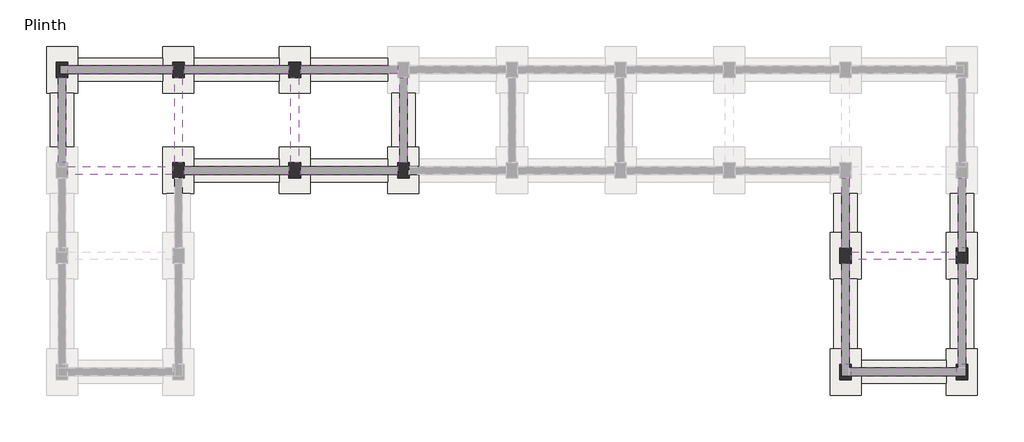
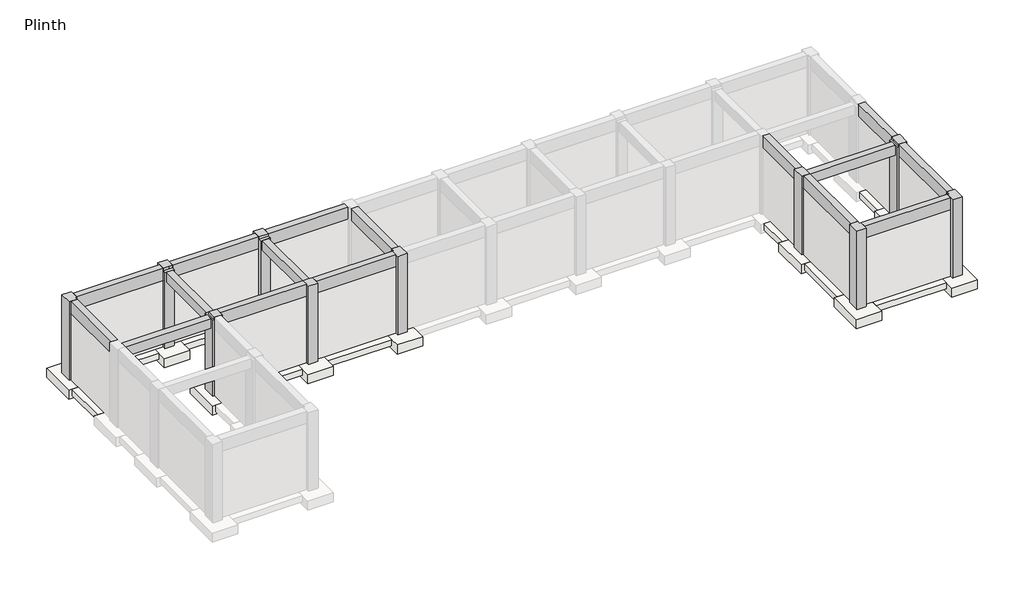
# One storey, part 2 of 3: 16 beams, 12 footings, 10 columns, 10 slabs.
"""IFC4 building model written with IfcOpenShell, lengths in millimetres."""

from ifc_helpers import new_model, si_unit, frame, origin, origin_with_axes, place, context, project, spatial, polyline, outline, extrude, faceted_brep, element, save

model = new_model("IFC4")

# Units and contexts
model_context = context("Model", 3, world=origin())
ifc_project = project(units=[si_unit("LENGTHUNIT", "METRE", prefix="MILLI")], contexts=[model_context])

# Site, building, storey
site = spatial("IfcSite", under=ifc_project)
building = spatial("IfcBuilding", under=site)
storey = spatial("IfcBuildingStorey", under=building, Name="Plinth", Elevation=304.8)

# Beams
placement = place(None, origin())
element("IfcBeam", 1, ObjectType="Concrete-Rectangular Beam : 12 x 24", at=placement, inside=storey, context=model_context, shape_type="SweptSolid", body=[
    extrude(outline(polyline([(-7030.7781752, 13902.9470864), (-7030.7781752, 14207.7470864), (-2915.9781752, 14207.7470864), (-2915.9781752, 13902.9470864), (-7030.7781752, 13902.9470864)])), frame((0.0, 0.0, 3657.6), z_axis=(0.0, 0.0, 1.0), x_axis=(1.0, 0.0, 0.0)), (0.0, 0.0, 1.0), 482.6),
])
element("IfcBeam", 2, ObjectType="Concrete-Rectangular Beam : 12 x 24", at=placement, inside=storey, context=model_context, shape_type="Brep", body=[
    faceted_brep([(-2534.9781752, 17103.3470864, 4267.2), (-2839.7781752, 17103.3470864, 4267.2), (-2839.7781752, 14360.1470864, 4267.2), (-2534.9781752, 14360.1470864, 4267.2), (-2839.7781752, 17103.3470864, 4140.2), (-2839.7781752, 17103.3470864, 3657.6), (-2839.7781752, 14360.1470864, 3657.6), (-2839.7781752, 14360.1470864, 4140.2), (-2534.9781752, 17103.3470864, 3657.6), (-2534.9781752, 14360.1470864, 3657.6)], [[[0, 1, 2, 3]], [[1, 4, 5, 6, 7, 2]], [[5, 8, 9, 6]], [[8, 0, 3, 9]], [[1, 0, 8, 5, 4]], [[3, 2, 7, 6, 9]]]),
])
element("IfcBeam", 3, ObjectType="Concrete-Rectangular Beam : 12 x 24", at=placement, inside=storey, context=model_context, shape_type="Brep", body=[
    faceted_brep([(-2534.9781752, 13750.5470864, 4267.2), (-2839.7781752, 13750.5470864, 4267.2), (-2839.7781752, 9788.1470864, 4267.2), (-2534.9781752, 9788.1470864, 4267.2), (-2839.7781752, 13750.5470864, 4140.2), (-2839.7781752, 13750.5470864, 3657.6), (-2839.7781752, 9788.1470864, 3657.6), (-2839.7781752, 9788.1470864, 4140.2), (-2534.9781752, 13750.5470864, 3657.6), (-2534.9781752, 9788.1470864, 3657.6)], [[[0, 1, 2, 3]], [[1, 4, 5, 6, 7, 2]], [[5, 8, 9, 6]], [[8, 0, 3, 9]], [[1, 0, 8, 5, 4]], [[3, 2, 7, 6, 9]]]),
])
element("IfcBeam", 4, ObjectType="Concrete-Rectangular Beam : 12 x 24", at=placement, inside=storey, context=model_context, shape_type="Brep", body=[
    faceted_brep([(-7106.9781752, 17103.3470864, 4267.2), (-7411.7781752, 17103.3470864, 4267.2), (-7411.7781752, 14360.1470864, 4267.2), (-7106.9781752, 14360.1470864, 4267.2), (-7411.7781752, 17103.3470864, 3657.6), (-7411.7781752, 14360.1470864, 3657.6), (-7106.9781752, 17103.3470864, 3657.6), (-7106.9781752, 14360.1470864, 3657.6), (-7106.9781752, 14360.1470864, 4140.2), (-7106.9781752, 17103.3470864, 4140.2)], [[[0, 1, 2, 3]], [[1, 4, 5, 2]], [[4, 6, 7, 5]], [[0, 3, 8, 7, 6, 9]], [[1, 0, 9, 6, 4]], [[3, 2, 5, 7, 8]]]),
])
element("IfcBeam", 5, ObjectType="Concrete-Rectangular Beam : 12 x 24", at=placement, inside=storey, context=model_context, shape_type="Brep", body=[
    faceted_brep([(-7106.9781752, 13750.5470864, 4267.2), (-7411.7781752, 13750.5470864, 4267.2), (-7411.7781752, 9788.1470864, 4267.2), (-7106.9781752, 9788.1470864, 4267.2), (-7411.7781752, 13750.5470864, 3657.6), (-7411.7781752, 9788.1470864, 3657.6), (-7106.9781752, 13750.5470864, 3657.6), (-7106.9781752, 9788.1470864, 3657.6), (-7106.9781752, 9788.1470864, 4140.2), (-7106.9781752, 13750.5470864, 4140.2)], [[[0, 1, 2, 3]], [[1, 4, 5, 2]], [[4, 6, 7, 5]], [[0, 3, 8, 7, 6, 9]], [[1, 0, 9, 6, 4]], [[3, 2, 5, 7, 8]]]),
])
element("IfcBeam", 6, ObjectType="Concrete-Rectangular Beam : 12 x 24", at=placement, inside=storey, context=model_context, shape_type="Brep", body=[
    faceted_brep([(-7030.7781752, 9635.7470864, 4267.2), (-7030.7781752, 9330.9470864, 4267.2), (-2915.9781752, 9330.9470864, 4267.2), (-2915.9781752, 9635.7470864, 4267.2), (-7030.7781752, 9330.9470864, 3657.6), (-2915.9781752, 9330.9470864, 3657.6), (-7030.7781752, 9635.7470864, 3657.6), (-2915.9781752, 9635.7470864, 3657.6), (-7030.7781752, 9635.7470864, 4140.2), (-2915.9781752, 9635.7470864, 4140.2)], [[[0, 1, 2, 3]], [[1, 4, 5, 2]], [[4, 6, 7, 5]], [[6, 8, 0, 3, 9, 7]], [[1, 0, 8, 6, 4]], [[3, 2, 5, 7, 9]]]),
])
element("IfcBeam", 7, ObjectType="Concrete-Rectangular Beam : 12 x 24", at=placement, inside=storey, context=model_context, shape_type="SweptSolid", body=[
    extrude(outline(polyline([(-28747.7781752, 17712.9470864), (-29052.5781752, 17712.9470864), (-29052.5781752, 21065.7470864), (-28747.7781752, 21065.7470864), (-28747.7781752, 17712.9470864)])), frame((0.0, 0.0, 3657.6), z_axis=(0.0, 0.0, 1.0), x_axis=(1.0, 0.0, 0.0)), (0.0, 0.0, 1.0), 482.6),
])
element("IfcBeam", 8, ObjectType="Concrete-Rectangular Beam : 12 x 24", at=placement, inside=storey, context=model_context, shape_type="SweptSolid", body=[
    extrude(outline(polyline([(-33624.5781752, 21065.7470864), (-33319.7781752, 21065.7470864), (-33319.7781752, 17712.9470864), (-33624.5781752, 17712.9470864), (-33624.5781752, 21065.7470864)])), frame((0.0, 0.0, 3657.6), z_axis=(0.0, 0.0, 1.0), x_axis=(1.0, 0.0, 0.0)), (0.0, 0.0, 1.0), 482.6),
])
element("IfcBeam", 9, ObjectType="Concrete-Rectangular Beam : 12 x 24", at=placement, inside=storey, context=model_context, shape_type="SweptSolid", body=[
    extrude(outline(polyline([(-33700.7781752, 17560.5470864), (-33700.7781752, 17255.7470864), (-37815.5781752, 17255.7470864), (-37815.5781752, 17560.5470864), (-33700.7781752, 17560.5470864)])), frame((0.0, 0.0, 3657.6), z_axis=(0.0, 0.0, 1.0), x_axis=(1.0, 0.0, 0.0)), (0.0, 0.0, 1.0), 482.6),
])
element("IfcBeam", 10, ObjectType="Concrete-Rectangular Beam : 12 x 24", at=placement, inside=storey, context=model_context, shape_type="Brep", body=[
    faceted_brep([(-24861.5781752, 21218.1470864, 4267.2), (-24861.5781752, 21522.9470864, 4267.2), (-28671.5781752, 21522.9470864, 4267.2), (-28671.5781752, 21218.1470864, 4267.2), (-24861.5781752, 21218.1470864, 3657.6), (-24861.5781752, 21218.1470864, 4140.2), (-28671.5781752, 21218.1470864, 4140.2), (-28671.5781752, 21218.1470864, 3657.6), (-24861.5781752, 21522.9470864, 3657.6), (-28671.5781752, 21522.9470864, 3657.6)], [[[0, 1, 2, 3]], [[4, 5, 0, 3, 6, 7]], [[8, 4, 7, 9]], [[1, 8, 9, 2]], [[1, 0, 5, 4, 8]], [[3, 2, 9, 7, 6]]]),
])
element("IfcBeam", 11, ObjectType="Concrete-Rectangular Beam : 12 x 24", at=placement, inside=storey, context=model_context, shape_type="Brep", body=[
    faceted_brep([(-29128.7781752, 21218.1470864, 4267.2), (-29128.7781752, 21522.9470864, 4267.2), (-33243.5781752, 21522.9470864, 4267.2), (-33243.5781752, 21218.1470864, 4267.2), (-29128.7781752, 21218.1470864, 3657.6), (-29128.7781752, 21218.1470864, 4140.2), (-33243.5781752, 21218.1470864, 4140.2), (-33243.5781752, 21218.1470864, 3657.6), (-29128.7781752, 21522.9470864, 3657.6), (-33243.5781752, 21522.9470864, 3657.6)], [[[0, 1, 2, 3]], [[4, 5, 0, 3, 6, 7]], [[8, 4, 7, 9]], [[1, 8, 9, 2]], [[1, 0, 5, 4, 8]], [[3, 2, 9, 7, 6]]]),
])
element("IfcBeam", 12, ObjectType="Concrete-Rectangular Beam : 12 x 24", at=placement, inside=storey, context=model_context, shape_type="Brep", body=[
    faceted_brep([(-33700.7781752, 21218.1470864, 4267.2), (-33700.7781752, 21522.9470864, 4267.2), (-37815.5781752, 21522.9470864, 4267.2), (-37815.5781752, 21218.1470864, 4267.2), (-33700.7781752, 21218.1470864, 3657.6), (-33700.7781752, 21218.1470864, 4140.2), (-37815.5781752, 21218.1470864, 4140.2), (-37815.5781752, 21218.1470864, 3657.6), (-33700.7781752, 21522.9470864, 3657.6), (-37815.5781752, 21522.9470864, 3657.6)], [[[0, 1, 2, 3]], [[4, 5, 0, 3, 6, 7]], [[8, 4, 7, 9]], [[1, 8, 9, 2]], [[1, 0, 5, 4, 8]], [[3, 2, 9, 7, 6]]]),
])
element("IfcBeam", 13, ObjectType="Concrete-Rectangular Beam : 12 x 24", at=placement, inside=storey, context=model_context, shape_type="Brep", body=[
    faceted_brep([(-24480.5781752, 21065.7470864, 4267.2), (-24785.3781752, 21065.7470864, 4267.2), (-24785.3781752, 17712.9470864, 4267.2), (-24480.5781752, 17712.9470864, 4267.2), (-24480.5781752, 21065.7470864, 3657.6), (-24480.5781752, 17712.9470864, 3657.6), (-24785.3781752, 21065.7470864, 3657.6), (-24785.3781752, 17712.9470864, 3657.6), (-24785.3781752, 21065.7470864, 4140.2), (-24785.3781752, 17712.9470864, 4140.2)], [[[0, 1, 2, 3]], [[4, 0, 3, 5]], [[6, 4, 5, 7]], [[1, 8, 6, 7, 9, 2]], [[1, 0, 4, 6, 8]], [[3, 2, 9, 7, 5]]]),
])
element("IfcBeam", 14, ObjectType="Concrete-Rectangular Beam : 12 x 24", at=placement, inside=storey, context=model_context, shape_type="Brep", body=[
    faceted_brep([(-37891.7781752, 21065.7470864, 4267.2), (-38196.5781752, 21065.7470864, 4267.2), (-38196.5781752, 17712.9470864, 4267.2), (-37891.7781752, 17712.9470864, 4267.2), (-37891.7781752, 21065.7470864, 3657.6), (-37891.7781752, 21065.7470864, 4140.2), (-37891.7781752, 17712.9470864, 4140.2), (-37891.7781752, 17712.9470864, 3657.6), (-38196.5781752, 21065.7470864, 3657.6), (-38196.5781752, 17712.9470864, 3657.6)], [[[0, 1, 2, 3]], [[4, 5, 0, 3, 6, 7]], [[8, 4, 7, 9]], [[1, 8, 9, 2]], [[1, 0, 5, 4, 8]], [[3, 2, 9, 7, 6]]]),
])
element("IfcBeam", 15, ObjectType="Concrete-Rectangular Beam : 12 x 24", at=placement, inside=storey, context=model_context, shape_type="Brep", body=[
    faceted_brep([(-29128.7781752, 17255.7470864, 4267.2), (-29128.7781752, 17560.5470864, 4267.2), (-33243.5781752, 17560.5470864, 4267.2), (-33243.5781752, 17255.7470864, 4267.2), (-29128.7781752, 17255.7470864, 3657.6), (-33243.5781752, 17255.7470864, 3657.6), (-29128.7781752, 17560.5470864, 3657.6), (-33243.5781752, 17560.5470864, 3657.6), (-29128.7781752, 17560.5470864, 4140.2), (-33243.5781752, 17560.5470864, 4140.2)], [[[0, 1, 2, 3]], [[4, 0, 3, 5]], [[6, 4, 5, 7]], [[2, 1, 8, 6, 7, 9]], [[1, 0, 4, 6, 8]], [[3, 2, 9, 7, 5]]]),
])
element("IfcBeam", 16, ObjectType="Concrete-Rectangular Beam : 12 x 24", at=placement, inside=storey, context=model_context, shape_type="Brep", body=[
    faceted_brep([(-24861.5781752, 17255.7470864, 4267.2), (-24861.5781752, 17560.5470864, 4267.2), (-28671.5781752, 17560.5470864, 4267.2), (-28671.5781752, 17255.7470864, 4267.2), (-24861.5781752, 17255.7470864, 3657.6), (-28671.5781752, 17255.7470864, 3657.6), (-24861.5781752, 17560.5470864, 3657.6), (-28671.5781752, 17560.5470864, 3657.6), (-24861.5781752, 17560.5470864, 4140.2), (-28671.5781752, 17560.5470864, 4140.2)], [[[0, 1, 2, 3]], [[4, 0, 3, 5]], [[6, 4, 5, 7]], [[2, 1, 8, 6, 7, 9]], [[1, 0, 4, 6, 8]], [[3, 2, 9, 7, 5]]]),
])

# Columns
element("IfcColumn", 17, ObjectType="Concrete-Rectangular-Column : 18 x 24", at=placement, inside=storey, context=model_context, shape_type="Brep", body=[
    faceted_brep([(-7030.7781752, 14360.1470864, 304.8), (-7030.7781752, 13750.5470864, 304.8), (-7106.9781752, 13750.5470864, 304.8), (-7411.7781752, 13750.5470864, 304.8), (-7487.9781752, 13750.5470864, 304.8), (-7487.9781752, 14360.1470864, 304.8), (-7411.7781752, 14360.1470864, 304.8), (-7106.9781752, 14360.1470864, 304.8), (-7030.7781752, 14360.1470864, 4140.2), (-7030.7781752, 13750.5470864, 4140.2), (-7106.9781752, 13750.5470864, 4140.2), (-7106.9781752, 13750.5470864, 4267.2), (-7487.9781752, 13750.5470864, 4267.2), (-7487.9781752, 14360.1470864, 4267.2), (-7106.9781752, 14360.1470864, 4267.2), (-7106.9781752, 14360.1470864, 4140.2), (-7106.9781752, 14211.6122361, 4267.2), (-7106.9781752, 14211.6122361, 4140.2)], [[[0, 1, 2, 3, 4, 5, 6, 7]], [[1, 0, 8, 9]], [[4, 3, 2, 1, 9, 10, 11, 12]], [[5, 4, 12, 13]], [[0, 7, 6, 5, 13, 14, 15, 8]], [[13, 12, 11, 16, 14]], [[15, 17, 10, 9, 8]], [[17, 16, 11, 10]], [[16, 17, 15, 14]]]),
])
element("IfcColumn", 18, ObjectType="Concrete-Rectangular-Column : 18 x 24", at=placement, inside=storey, context=model_context, shape_type="Brep", body=[
    faceted_brep([(-2458.7781752, 14360.1470864, 304.8), (-2458.7781752, 13750.5470864, 304.8), (-2534.9781752, 13750.5470864, 304.8), (-2839.7781752, 13750.5470864, 304.8), (-2915.9781752, 13750.5470864, 304.8), (-2915.9781752, 14360.1470864, 304.8), (-2839.7781752, 14360.1470864, 304.8), (-2839.7781752, 14207.7470864, 304.8), (-2534.9781752, 14207.7470864, 304.8), (-2534.9781752, 14360.1470864, 304.8), (-2458.7781752, 14360.1470864, 4267.2), (-2458.7781752, 13750.5470864, 4267.2), (-2839.7781752, 13750.5470864, 4267.2), (-2839.7781752, 13750.5470864, 4140.2), (-2915.9781752, 13750.5470864, 4140.2), (-2915.9781752, 14360.1470864, 4140.2), (-2534.9781752, 14360.1470864, 3657.6), (-2839.7781752, 14360.1470864, 3657.6), (-2839.7781752, 14360.1470864, 4140.2), (-2839.7781752, 14360.1470864, 4267.2), (-2839.7781752, 14203.6458879, 4267.2), (-2839.7781752, 14207.7470864, 3657.6), (-2534.9781752, 14207.7470864, 3657.6), (-2839.7781752, 14203.6458879, 4140.2)], [[[0, 1, 2, 3, 4, 5, 6, 7, 8, 9]], [[1, 0, 10, 11]], [[4, 3, 2, 1, 11, 12, 13, 14]], [[5, 4, 14, 15]], [[10, 0, 9, 16, 17, 6, 5, 15, 18, 19]], [[11, 10, 19, 20, 12]], [[21, 7, 6, 17]], [[22, 21, 17, 16]], [[22, 8, 7, 21]], [[8, 22, 16, 9]], [[13, 23, 18, 15, 14]], [[23, 20, 19, 18]], [[20, 23, 13, 12]]]),
])
element("IfcColumn", 19, ObjectType="Concrete-Rectangular-Column : 18 x 24", at=placement, inside=storey, context=model_context, shape_type="Brep", body=[
    faceted_brep([(-7106.9781752, 9788.1470864, 304.8), (-7030.7781752, 9788.1470864, 304.8), (-7030.7781752, 9635.7470864, 304.8), (-7106.9781752, 9635.7470864, 304.8), (-7030.7781752, 9178.5470864, 4267.2), (-7030.7781752, 9178.5470864, 304.8), (-7030.7781752, 9330.9470864, 304.8), (-7030.7781752, 9330.9470864, 3657.6), (-7030.7781752, 9635.7470864, 3657.6), (-7030.7781752, 9788.1470864, 4140.2), (-7030.7781752, 9635.7470864, 4140.2), (-7030.7781752, 9635.7470864, 4267.2), (-7487.9781752, 9178.5470864, 304.8), (-7487.9781752, 9178.5470864, 4267.2), (-7487.9781752, 9788.1470864, 304.8), (-7487.9781752, 9788.1470864, 4267.2), (-7106.9781752, 9788.1470864, 4267.2), (-7106.9781752, 9788.1470864, 4140.2), (-7106.9781752, 9788.1470864, 3657.6), (-7411.7781752, 9788.1470864, 3657.6), (-7411.7781752, 9788.1470864, 304.8), (-7106.9781752, 9635.7470864, 4267.2), (-7411.7781752, 9330.9470864, 3657.6), (-7411.7781752, 9330.9470864, 304.8), (-7106.9781752, 9635.7470864, 3657.6), (-7106.9781752, 9330.9470864, 3657.6), (-7106.9781752, 9330.9470864, 304.8), (-7106.9781752, 9635.7470864, 4140.2)], [[[0, 1, 2, 3]], [[4, 5, 6, 7, 8, 2, 1, 9, 10, 11]], [[12, 5, 4, 13]], [[14, 12, 13, 15]], [[14, 15, 16, 17, 9, 1, 0, 18, 19, 20]], [[13, 4, 11, 21, 16, 15]], [[22, 23, 20, 19]], [[18, 0, 3, 24]], [[23, 22, 25, 7, 6, 26]], [[8, 24, 3, 2]], [[22, 19, 18, 24, 8, 7, 25]], [[5, 12, 14, 20, 23, 26, 6]], [[17, 27, 10, 9]], [[27, 21, 11, 10]], [[21, 27, 17, 16]]]),
])
element("IfcColumn", 20, ObjectType="Concrete-Rectangular-Column : 18 x 24", at=placement, inside=storey, context=model_context, shape_type="Brep", body=[
    faceted_brep([(-2839.7781752, 9635.7470864, 304.8), (-2915.9781752, 9635.7470864, 304.8), (-2915.9781752, 9788.1470864, 304.8), (-2839.7781752, 9788.1470864, 304.8), (-2458.7781752, 9178.5470864, 304.8), (-2458.7781752, 9788.1470864, 304.8), (-2458.7781752, 9788.1470864, 4267.2), (-2458.7781752, 9178.5470864, 4267.2), (-2915.9781752, 9178.5470864, 304.8), (-2915.9781752, 9178.5470864, 4267.2), (-2915.9781752, 9635.7470864, 4267.2), (-2915.9781752, 9635.7470864, 4140.2), (-2915.9781752, 9788.1470864, 4140.2), (-2915.9781752, 9635.7470864, 3657.6), (-2915.9781752, 9330.9470864, 3657.6), (-2915.9781752, 9330.9470864, 304.8), (-2534.9781752, 9788.1470864, 304.8), (-2534.9781752, 9788.1470864, 3657.6), (-2839.7781752, 9788.1470864, 3657.6), (-2839.7781752, 9788.1470864, 4140.2), (-2839.7781752, 9788.1470864, 4267.2), (-2839.7781752, 9635.7470864, 4267.2), (-2534.9781752, 9330.9470864, 3657.6), (-2534.9781752, 9330.9470864, 304.8), (-2839.7781752, 9635.7470864, 3657.6), (-2534.9781752, 9635.7470864, 3657.6), (-2534.9781752, 9635.7470864, 304.8), (-2839.7781752, 9635.7470864, 4140.2)], [[[0, 1, 2, 3]], [[4, 5, 6, 7]], [[8, 4, 7, 9]], [[8, 9, 10, 11, 12, 2, 1, 13, 14, 15]], [[6, 5, 16, 17, 18, 3, 2, 12, 19, 20]], [[7, 6, 20, 21, 10, 9]], [[14, 22, 23, 15]], [[13, 1, 0, 24]], [[22, 14, 13, 24, 18, 17, 25]], [[23, 22, 25, 17, 16, 26]], [[18, 24, 0, 3]], [[5, 4, 8, 15, 23, 26, 16]], [[11, 27, 19, 12]], [[27, 21, 20, 19]], [[21, 27, 11, 10]]]),
])
element("IfcColumn", 21, ObjectType="Concrete-Rectangular-Column : 18 x 24", at=placement, inside=storey, context=model_context, shape_type="Brep", body=[
    faceted_brep([(-29128.7781752, 21065.7470864, 304.8), (-29128.7781752, 21218.1470864, 304.8), (-29128.7781752, 21522.9470864, 304.8), (-29128.7781752, 21675.3470864, 304.8), (-28671.5781752, 21675.3470864, 304.8), (-28671.5781752, 21522.9470864, 304.8), (-28671.5781752, 21218.1470864, 304.8), (-28671.5781752, 21065.7470864, 304.8), (-29128.7781752, 21065.7470864, 4140.2), (-29128.7781752, 21218.1470864, 4140.2), (-29128.7781752, 21218.1470864, 4267.2), (-29128.7781752, 21675.3470864, 4267.2), (-28671.5781752, 21065.7470864, 4140.2), (-28671.5781752, 21675.3470864, 4267.2), (-28671.5781752, 21218.1470864, 4267.2), (-28671.5781752, 21218.1470864, 4140.2)], [[[0, 1, 2, 3, 4, 5, 6, 7]], [[3, 2, 1, 0, 8, 9, 10, 11]], [[0, 7, 12, 8]], [[7, 6, 5, 4, 13, 14, 15, 12]], [[4, 3, 11, 13]], [[13, 11, 10, 14]], [[15, 9, 8, 12]], [[9, 15, 14, 10]]]),
])
element("IfcColumn", 22, ObjectType="Concrete-Rectangular-Column : 18 x 24", at=placement, inside=storey, context=model_context, shape_type="Brep", body=[
    faceted_brep([(-33700.7781752, 21065.7470864, 304.8), (-33700.7781752, 21218.1470864, 304.8), (-33700.7781752, 21522.9470864, 304.8), (-33700.7781752, 21675.3470864, 304.8), (-33243.5781752, 21675.3470864, 304.8), (-33243.5781752, 21522.9470864, 304.8), (-33243.5781752, 21218.1470864, 304.8), (-33243.5781752, 21065.7470864, 304.8), (-33700.7781752, 21065.7470864, 4140.2), (-33700.7781752, 21218.1470864, 4140.2), (-33700.7781752, 21218.1470864, 4267.2), (-33700.7781752, 21675.3470864, 4267.2), (-33243.5781752, 21065.7470864, 4140.2), (-33243.5781752, 21675.3470864, 4267.2), (-33243.5781752, 21218.1470864, 4267.2), (-33243.5781752, 21218.1470864, 4140.2), (-33393.6051326, 21218.1470864, 4267.2), (-33393.6051326, 21218.1470864, 4140.2)], [[[0, 1, 2, 3, 4, 5, 6, 7]], [[3, 2, 1, 0, 8, 9, 10, 11]], [[0, 7, 12, 8]], [[7, 6, 5, 4, 13, 14, 15, 12]], [[4, 3, 11, 13]], [[13, 11, 10, 16, 14]], [[15, 17, 9, 8, 12]], [[16, 17, 15, 14]], [[17, 16, 10, 9]]]),
])
element("IfcColumn", 23, ObjectType="Concrete-Rectangular-Column : 18 x 24", at=placement, inside=storey, context=model_context, shape_type="Brep", body=[
    faceted_brep([(-38272.7781752, 21065.7470864, 304.8), (-38272.7781752, 21675.3470864, 304.8), (-37815.5781752, 21675.3470864, 304.8), (-37815.5781752, 21522.9470864, 304.8), (-38120.3781752, 21522.9470864, 304.8), (-38120.3781752, 21218.1470864, 304.8), (-37815.5781752, 21218.1470864, 304.8), (-37815.5781752, 21065.7470864, 304.8), (-37891.7781752, 21065.7470864, 304.8), (-38196.5781752, 21065.7470864, 304.8), (-38272.7781752, 21065.7470864, 4267.2), (-38272.7781752, 21675.3470864, 4267.2), (-37815.5781752, 21065.7470864, 4140.2), (-37891.7781752, 21065.7470864, 4140.2), (-37891.7781752, 21065.7470864, 4267.2), (-37815.5781752, 21675.3470864, 4267.2), (-37815.5781752, 21218.1470864, 4267.2), (-37815.5781752, 21218.1470864, 4140.2), (-37815.5781752, 21218.1470864, 3657.6), (-37815.5781752, 21522.9470864, 3657.6), (-37891.7781752, 21218.1470864, 4267.2), (-38120.3781752, 21522.9470864, 3657.6), (-38120.3781752, 21218.1470864, 3657.6), (-37891.7781752, 21218.1470864, 4140.2)], [[[0, 1, 2, 3, 4, 5, 6, 7, 8, 9]], [[1, 0, 10, 11]], [[0, 9, 8, 7, 12, 13, 14, 10]], [[2, 15, 16, 17, 12, 7, 6, 18, 19, 3]], [[2, 1, 11, 15]], [[11, 10, 14, 20, 16, 15]], [[21, 4, 3, 19]], [[5, 22, 18, 6]], [[4, 21, 22, 5]], [[22, 21, 19, 18]], [[17, 23, 13, 12]], [[20, 23, 17, 16]], [[23, 20, 14, 13]]]),
])
element("IfcColumn", 24, ObjectType="Concrete-Rectangular-Column : 18 x 24", at=placement, inside=storey, context=model_context, shape_type="Brep", body=[
    faceted_brep([(-24861.5781752, 17103.3470864, 304.8), (-24861.5781752, 17255.7470864, 304.8), (-24861.5781752, 17560.5470864, 304.8), (-24861.5781752, 17712.9470864, 304.8), (-24785.3781752, 17712.9470864, 304.8), (-24480.5781752, 17712.9470864, 304.8), (-24404.3781752, 17712.9470864, 304.8), (-24404.3781752, 17560.5470864, 304.8), (-24404.3781752, 17255.7470864, 304.8), (-24404.3781752, 17103.3470864, 304.8), (-24861.5781752, 17103.3470864, 4267.2), (-24861.5781752, 17560.5470864, 4267.2), (-24861.5781752, 17560.5470864, 4140.2), (-24861.5781752, 17712.9470864, 4140.2), (-24404.3781752, 17103.3470864, 4267.2), (-24404.3781752, 17712.9470864, 4267.2), (-24785.3781752, 17712.9470864, 4140.2), (-24785.3781752, 17712.9470864, 4267.2), (-24785.3781752, 17560.5470864, 4267.2), (-24785.3781752, 17560.5470864, 4140.2)], [[[0, 1, 2, 3, 4, 5, 6, 7, 8, 9]], [[3, 2, 1, 0, 10, 11, 12, 13]], [[0, 9, 14, 10]], [[9, 8, 7, 6, 15, 14]], [[6, 5, 4, 3, 13, 16, 17, 15]], [[10, 14, 15, 17, 18, 11]], [[19, 16, 13, 12]], [[19, 18, 17, 16]], [[18, 19, 12, 11]]]),
])
element("IfcColumn", 25, ObjectType="Concrete-Rectangular-Column : 18 x 24", at=placement, inside=storey, context=model_context, shape_type="Brep", body=[
    faceted_brep([(-29128.7781752, 17103.3470864, 304.8), (-29128.7781752, 17255.7470864, 304.8), (-29128.7781752, 17560.5470864, 304.8), (-29128.7781752, 17712.9470864, 304.8), (-28671.5781752, 17712.9470864, 304.8), (-28671.5781752, 17560.5470864, 304.8), (-28671.5781752, 17255.7470864, 304.8), (-28671.5781752, 17103.3470864, 304.8), (-29128.7781752, 17103.3470864, 4267.2), (-29128.7781752, 17560.5470864, 4267.2), (-29128.7781752, 17560.5470864, 4140.2), (-29128.7781752, 17712.9470864, 4140.2), (-28671.5781752, 17103.3470864, 4267.2), (-28671.5781752, 17712.9470864, 4140.2), (-28671.5781752, 17560.5470864, 4140.2), (-28671.5781752, 17560.5470864, 4267.2), (-28862.0304875, 17560.5470864, 4267.2), (-28862.0304875, 17560.5470864, 4140.2)], [[[0, 1, 2, 3, 4, 5, 6, 7]], [[3, 2, 1, 0, 8, 9, 10, 11]], [[0, 7, 12, 8]], [[7, 6, 5, 4, 13, 14, 15, 12]], [[4, 3, 11, 13]], [[8, 12, 15, 16, 9]], [[10, 17, 14, 13, 11]], [[16, 17, 10, 9]], [[17, 16, 15, 14]]]),
])
element("IfcColumn", 26, ObjectType="Concrete-Rectangular-Column : 18 x 24", at=placement, inside=storey, context=model_context, shape_type="Brep", body=[
    faceted_brep([(-33700.7781752, 17103.3470864, 304.8), (-33700.7781752, 17712.9470864, 304.8), (-33243.5781752, 17712.9470864, 304.8), (-33243.5781752, 17560.5470864, 304.8), (-33243.5781752, 17255.7470864, 304.8), (-33243.5781752, 17103.3470864, 304.8), (-33319.7781752, 17103.3470864, 304.8), (-33624.5781752, 17103.3470864, 304.8), (-33700.7781752, 17103.3470864, 4140.2), (-33700.7781752, 17712.9470864, 4140.2), (-33243.5781752, 17103.3470864, 4267.2), (-33624.5781752, 17103.3470864, 4267.2), (-33624.5781752, 17103.3470864, 4140.2), (-33243.5781752, 17712.9470864, 4140.2), (-33243.5781752, 17560.5470864, 4140.2), (-33243.5781752, 17560.5470864, 4267.2), (-33624.5781752, 17560.5470864, 4267.2), (-33624.5781752, 17560.5470864, 4140.2)], [[[0, 1, 2, 3, 4, 5, 6, 7]], [[1, 0, 8, 9]], [[0, 7, 6, 5, 10, 11, 12, 8]], [[5, 4, 3, 2, 13, 14, 15, 10]], [[2, 1, 9, 13]], [[11, 10, 15, 16]], [[12, 17, 14, 13, 9, 8]], [[16, 17, 12, 11]], [[17, 16, 15, 14]]]),
])

# Footings
element("IfcFooting", 27, ObjectType="Bearing Footing - 36\" x 12\"", at=placement, inside=storey, context=model_context, shape_type="SweptSolid", body=[
    extrude(outline(polyline([(-3144.5781752, 16493.7470864), (-2230.1781752, 16493.7470864), (-2230.1781752, 14969.7470864), (-3144.5781752, 14969.7470864), (-3144.5781752, 16493.7470864)])), origin_with_axes(), (0.0, 0.0, 1.0), 304.8),
])
element("IfcFooting", 28, ObjectType="Bearing Footing - 36\" x 12\"", at=placement, inside=storey, context=model_context, shape_type="SweptSolid", body=[
    extrude(outline(polyline([(-3144.5781752, 13140.9470864), (-2230.1781752, 13140.9470864), (-2230.1781752, 10397.7470864), (-3144.5781752, 10397.7470864), (-3144.5781752, 13140.9470864)])), origin_with_axes(), (0.0, 0.0, 1.0), 304.8),
])
element("IfcFooting", 29, ObjectType="Bearing Footing - 36\" x 12\"", at=placement, inside=storey, context=model_context, shape_type="SweptSolid", body=[
    extrude(outline(polyline([(-6649.7781752, 9026.1470864), (-6649.7781752, 9940.5470864), (-3296.9781752, 9940.5470864), (-3296.9781752, 9026.1470864), (-6649.7781752, 9026.1470864)])), origin_with_axes(), (0.0, 0.0, 1.0), 304.8),
])
element("IfcFooting", 30, ObjectType="Bearing Footing - 36\" x 12\"", at=placement, inside=storey, context=model_context, shape_type="SweptSolid", body=[
    extrude(outline(polyline([(-7716.5781752, 13140.9470864), (-6802.1781752, 13140.9470864), (-6802.1781752, 10397.7470864), (-7716.5781752, 10397.7470864), (-7716.5781752, 13140.9470864)])), origin_with_axes(), (0.0, 0.0, 1.0), 304.8),
])
element("IfcFooting", 31, ObjectType="Bearing Footing - 36\" x 12\"", at=placement, inside=storey, context=model_context, shape_type="SweptSolid", body=[
    extrude(outline(polyline([(-7716.5781752, 16493.7470864), (-6802.1781752, 16493.7470864), (-6802.1781752, 14969.7470864), (-7716.5781752, 14969.7470864), (-7716.5781752, 16493.7470864)])), origin_with_axes(), (0.0, 0.0, 1.0), 304.8),
])
element("IfcFooting", 32, ObjectType="Bearing Footing - 36\" x 12\"", at=placement, inside=storey, context=model_context, shape_type="SweptSolid", body=[
    extrude(outline(polyline([(-25242.5781752, 21827.7470864), (-25242.5781752, 20913.3470864), (-28290.5781752, 20913.3470864), (-28290.5781752, 21827.7470864), (-25242.5781752, 21827.7470864)])), origin_with_axes(), (0.0, 0.0, 1.0), 304.8),
])
element("IfcFooting", 33, ObjectType="Bearing Footing - 36\" x 12\"", at=placement, inside=storey, context=model_context, shape_type="SweptSolid", body=[
    extrude(outline(polyline([(-29509.7781752, 21827.7470864), (-29509.7781752, 20913.3470864), (-32862.5781752, 20913.3470864), (-32862.5781752, 21827.7470864), (-29509.7781752, 21827.7470864)])), origin_with_axes(), (0.0, 0.0, 1.0), 304.8),
])
element("IfcFooting", 34, ObjectType="Bearing Footing - 36\" x 12\"", at=placement, inside=storey, context=model_context, shape_type="SweptSolid", body=[
    extrude(outline(polyline([(-34081.7781752, 21827.7470864), (-34081.7781752, 20913.3470864), (-37434.5781752, 20913.3470864), (-37434.5781752, 21827.7470864), (-34081.7781752, 21827.7470864)])), origin_with_axes(), (0.0, 0.0, 1.0), 304.8),
])
element("IfcFooting", 35, ObjectType="Bearing Footing - 36\" x 12\"", at=placement, inside=storey, context=model_context, shape_type="SweptSolid", body=[
    extrude(outline(polyline([(-38501.3781752, 20456.1470864), (-37586.9781752, 20456.1470864), (-37586.9781752, 18322.5470864), (-38501.3781752, 18322.5470864), (-38501.3781752, 20456.1470864)])), origin_with_axes(), (0.0, 0.0, 1.0), 304.8),
])
element("IfcFooting", 36, ObjectType="Bearing Footing - 36\" x 12\"", at=placement, inside=storey, context=model_context, shape_type="SweptSolid", body=[
    extrude(outline(polyline([(-29509.7781752, 17865.3470864), (-29509.7781752, 16950.9470864), (-32862.5781752, 16950.9470864), (-32862.5781752, 17865.3470864), (-29509.7781752, 17865.3470864)])), origin_with_axes(), (0.0, 0.0, 1.0), 304.8),
])
element("IfcFooting", 37, ObjectType="Bearing Footing - 36\" x 12\"", at=placement, inside=storey, context=model_context, shape_type="SweptSolid", body=[
    extrude(outline(polyline([(-25242.5781752, 17865.3470864), (-25242.5781752, 16950.9470864), (-28290.5781752, 16950.9470864), (-28290.5781752, 17865.3470864), (-25242.5781752, 17865.3470864)])), origin_with_axes(), (0.0, 0.0, 1.0), 304.8),
])
element("IfcFooting", 38, ObjectType="Bearing Footing - 36\" x 12\"", at=placement, inside=storey, context=model_context, shape_type="SweptSolid", body=[
    extrude(outline(polyline([(-25090.1781752, 20456.1470864), (-24175.7781752, 20456.1470864), (-24175.7781752, 18322.5470864), (-25090.1781752, 18322.5470864), (-25090.1781752, 20456.1470864)])), origin_with_axes(), (0.0, 0.0, 1.0), 304.8),
])

# Slabs
element("IfcSlab", 39, ObjectType="Footing-Rectangular : 72\" x 48\" x 18\"", at=placement, inside=storey, context=model_context, shape_type="Brep", body=[
    faceted_brep([(-7868.9781752, 13140.9470864, 304.8), (-7716.5781752, 13140.9470864, 304.8), (-6802.1781752, 13140.9470864, 304.8), (-6649.7781752, 13140.9470864, 304.8), (-6649.7781752, 14969.7470864, 304.8), (-6802.1781752, 14969.7470864, 304.8), (-7716.5781752, 14969.7470864, 304.8), (-7868.9781752, 14969.7470864, 304.8), (-7868.9781752, 13140.9470864, -152.4), (-7868.9781752, 14969.7470864, -152.4), (-6649.7781752, 14969.7470864, -152.4), (-6649.7781752, 13140.9470864, -152.4)], [[[0, 1, 2, 3, 4, 5, 6, 7]], [[8, 9, 10, 11]], [[3, 2, 1, 0, 8, 11]], [[4, 3, 11, 10]], [[7, 6, 5, 4, 10, 9]], [[0, 7, 9, 8]]]),
])
element("IfcSlab", 40, ObjectType="Footing-Rectangular : 72\" x 48\" x 18\"", at=placement, inside=storey, context=model_context, shape_type="Brep", body=[
    faceted_brep([(-3296.9781752, 13140.9470864, 304.8), (-3144.5781752, 13140.9470864, 304.8), (-2230.1781752, 13140.9470864, 304.8), (-2077.7781752, 13140.9470864, 304.8), (-2077.7781752, 14969.7470864, 304.8), (-2230.1781752, 14969.7470864, 304.8), (-3144.5781752, 14969.7470864, 304.8), (-3296.9781752, 14969.7470864, 304.8), (-3296.9781752, 13140.9470864, -152.4), (-3296.9781752, 14969.7470864, -152.4), (-2077.7781752, 14969.7470864, -152.4), (-2077.7781752, 13140.9470864, -152.4)], [[[0, 1, 2, 3, 4, 5, 6, 7]], [[8, 9, 10, 11]], [[3, 2, 1, 0, 8, 11]], [[4, 3, 11, 10]], [[7, 6, 5, 4, 10, 9]], [[0, 7, 9, 8]]]),
])
element("IfcSlab", 41, ObjectType="Footing-Rectangular : 72\" x 48\" x 18\"", at=placement, inside=storey, context=model_context, shape_type="Brep", body=[
    faceted_brep([(-7868.9781752, 8568.9470864, 304.8), (-6649.7781752, 8568.9470864, 304.8), (-6649.7781752, 9026.1470864, 304.8), (-6649.7781752, 9940.5470864, 304.8), (-6649.7781752, 10397.7470864, 304.8), (-6802.1781752, 10397.7470864, 304.8), (-7716.5781752, 10397.7470864, 304.8), (-7868.9781752, 10397.7470864, 304.8), (-7868.9781752, 8568.9470864, -152.4), (-7868.9781752, 10397.7470864, -152.4), (-6649.7781752, 10397.7470864, -152.4), (-6649.7781752, 8568.9470864, -152.4)], [[[0, 1, 2, 3, 4, 5, 6, 7]], [[8, 9, 10, 11]], [[1, 0, 8, 11]], [[4, 3, 2, 1, 11, 10]], [[7, 6, 5, 4, 10, 9]], [[0, 7, 9, 8]]]),
])
element("IfcSlab", 42, ObjectType="Footing-Rectangular : 72\" x 48\" x 18\"", at=placement, inside=storey, context=model_context, shape_type="Brep", body=[
    faceted_brep([(-3296.9781752, 8568.9470864, 304.8), (-2077.7781752, 8568.9470864, 304.8), (-2077.7781752, 10397.7470864, 304.8), (-2230.1781752, 10397.7470864, 304.8), (-3144.5781752, 10397.7470864, 304.8), (-3296.9781752, 10397.7470864, 304.8), (-3296.9781752, 9940.5470864, 304.8), (-3296.9781752, 9026.1470864, 304.8), (-3296.9781752, 8568.9470864, -152.4), (-3296.9781752, 10397.7470864, -152.4), (-2077.7781752, 10397.7470864, -152.4), (-2077.7781752, 8568.9470864, -152.4)], [[[0, 1, 2, 3, 4, 5, 6, 7]], [[8, 9, 10, 11]], [[1, 0, 8, 11]], [[2, 1, 11, 10]], [[5, 4, 3, 2, 10, 9]], [[0, 7, 6, 5, 9, 8]]]),
])
element("IfcSlab", 43, ObjectType="Footing-Rectangular : 72\" x 48\" x 18\"", at=placement, inside=storey, context=model_context, shape_type="Brep", body=[
    faceted_brep([(-28290.5781752, 20456.1470864, 304.8), (-28290.5781752, 20913.3470864, 304.8), (-28290.5781752, 21827.7470864, 304.8), (-28290.5781752, 22284.9470864, 304.8), (-29509.7781752, 22284.9470864, 304.8), (-29509.7781752, 21827.7470864, 304.8), (-29509.7781752, 20913.3470864, 304.8), (-29509.7781752, 20456.1470864, 304.8), (-28290.5781752, 20456.1470864, -152.4), (-29509.7781752, 20456.1470864, -152.4), (-29509.7781752, 22284.9470864, -152.4), (-28290.5781752, 22284.9470864, -152.4)], [[[0, 1, 2, 3, 4, 5, 6, 7]], [[8, 9, 10, 11]], [[7, 9, 8, 0]], [[4, 10, 9, 7, 6, 5]], [[3, 11, 10, 4]], [[0, 8, 11, 3, 2, 1]]]),
])
element("IfcSlab", 44, ObjectType="Footing-Rectangular : 72\" x 48\" x 18\"", at=placement, inside=storey, context=model_context, shape_type="Brep", body=[
    faceted_brep([(-32862.5781752, 20456.1470864, 304.8), (-32862.5781752, 20913.3470864, 304.8), (-32862.5781752, 21827.7470864, 304.8), (-32862.5781752, 22284.9470864, 304.8), (-34081.7781752, 22284.9470864, 304.8), (-34081.7781752, 21827.7470864, 304.8), (-34081.7781752, 20913.3470864, 304.8), (-34081.7781752, 20456.1470864, 304.8), (-32862.5781752, 20456.1470864, -152.4), (-34081.7781752, 20456.1470864, -152.4), (-34081.7781752, 22284.9470864, -152.4), (-32862.5781752, 22284.9470864, -152.4)], [[[0, 1, 2, 3, 4, 5, 6, 7]], [[8, 9, 10, 11]], [[7, 9, 8, 0]], [[4, 10, 9, 7, 6, 5]], [[3, 11, 10, 4]], [[0, 8, 11, 3, 2, 1]]]),
])
element("IfcSlab", 45, ObjectType="Footing-Rectangular : 72\" x 48\" x 18\"", at=placement, inside=storey, context=model_context, shape_type="Brep", body=[
    faceted_brep([(-37434.5781752, 20456.1470864, 304.8), (-37434.5781752, 20913.3470864, 304.8), (-37434.5781752, 21827.7470864, 304.8), (-37434.5781752, 22284.9470864, 304.8), (-38653.7781752, 22284.9470864, 304.8), (-38653.7781752, 20456.1470864, 304.8), (-38501.3781752, 20456.1470864, 304.8), (-37586.9781752, 20456.1470864, 304.8), (-37434.5781752, 20456.1470864, -152.4), (-38653.7781752, 20456.1470864, -152.4), (-38653.7781752, 22284.9470864, -152.4), (-37434.5781752, 22284.9470864, -152.4)], [[[0, 1, 2, 3, 4, 5, 6, 7]], [[8, 9, 10, 11]], [[5, 9, 8, 0, 7, 6]], [[4, 10, 9, 5]], [[3, 11, 10, 4]], [[0, 8, 11, 3, 2, 1]]]),
])
element("IfcSlab", 46, ObjectType="Footing-Rectangular : 72\" x 48\" x 18\"", at=placement, inside=storey, context=model_context, shape_type="Brep", body=[
    faceted_brep([(-24023.3781752, 16493.7470864, 304.8), (-24023.3781752, 16950.9470864, 304.8), (-24023.3781752, 17865.3470864, 304.8), (-24023.3781752, 18322.5470864, 304.8), (-24175.7781752, 18322.5470864, 304.8), (-25090.1781752, 18322.5470864, 304.8), (-25242.5781752, 18322.5470864, 304.8), (-25242.5781752, 17865.3470864, 304.8), (-25242.5781752, 16950.9470864, 304.8), (-25242.5781752, 16493.7470864, 304.8), (-24023.3781752, 16493.7470864, -152.4), (-25242.5781752, 16493.7470864, -152.4), (-25242.5781752, 18322.5470864, -152.4), (-24023.3781752, 18322.5470864, -152.4)], [[[0, 1, 2, 3, 4, 5, 6, 7, 8, 9]], [[10, 11, 12, 13]], [[9, 11, 10, 0]], [[6, 12, 11, 9, 8, 7]], [[3, 13, 12, 6, 5, 4]], [[0, 10, 13, 3, 2, 1]]]),
])
element("IfcSlab", 47, ObjectType="Footing-Rectangular : 72\" x 48\" x 18\"", at=placement, inside=storey, context=model_context, shape_type="Brep", body=[
    faceted_brep([(-28290.5781752, 16493.7470864, 304.8), (-28290.5781752, 16950.9470864, 304.8), (-28290.5781752, 17865.3470864, 304.8), (-28290.5781752, 18322.5470864, 304.8), (-29509.7781752, 18322.5470864, 304.8), (-29509.7781752, 17865.3470864, 304.8), (-29509.7781752, 16950.9470864, 304.8), (-29509.7781752, 16493.7470864, 304.8), (-28290.5781752, 16493.7470864, -152.4), (-29509.7781752, 16493.7470864, -152.4), (-29509.7781752, 18322.5470864, -152.4), (-28290.5781752, 18322.5470864, -152.4)], [[[0, 1, 2, 3, 4, 5, 6, 7]], [[8, 9, 10, 11]], [[7, 9, 8, 0]], [[4, 10, 9, 7, 6, 5]], [[3, 11, 10, 4]], [[0, 8, 11, 3, 2, 1]]]),
])
element("IfcSlab", 48, ObjectType="Footing-Rectangular : 72\" x 48\" x 18\"", at=placement, inside=storey, context=model_context, shape_type="Brep", body=[
    faceted_brep([(-32862.5781752, 16493.7470864, 304.8), (-32862.5781752, 16950.9470864, 304.8), (-32862.5781752, 17865.3470864, 304.8), (-32862.5781752, 18322.5470864, 304.8), (-34081.7781752, 18322.5470864, 304.8), (-34081.7781752, 16493.7470864, 304.8), (-33929.3781752, 16493.7470864, 304.8), (-33014.9781752, 16493.7470864, 304.8), (-32862.5781752, 16493.7470864, -152.4), (-34081.7781752, 16493.7470864, -152.4), (-34081.7781752, 18322.5470864, -152.4), (-32862.5781752, 18322.5470864, -152.4)], [[[0, 1, 2, 3, 4, 5, 6, 7]], [[8, 9, 10, 11]], [[5, 9, 8, 0, 7, 6]], [[4, 10, 9, 5]], [[3, 11, 10, 4]], [[0, 8, 11, 3, 2, 1]]]),
])

save(model, "model.ifc")
